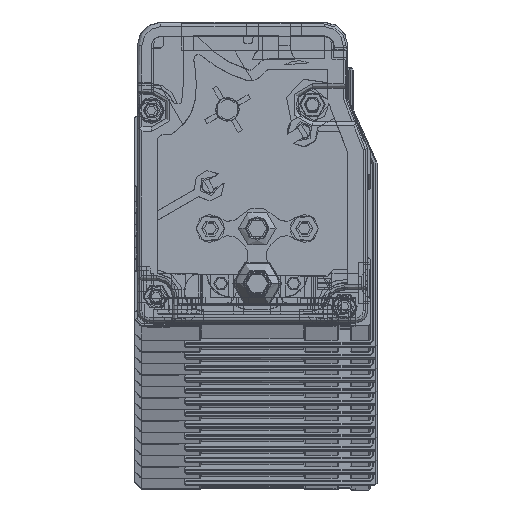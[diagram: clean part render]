
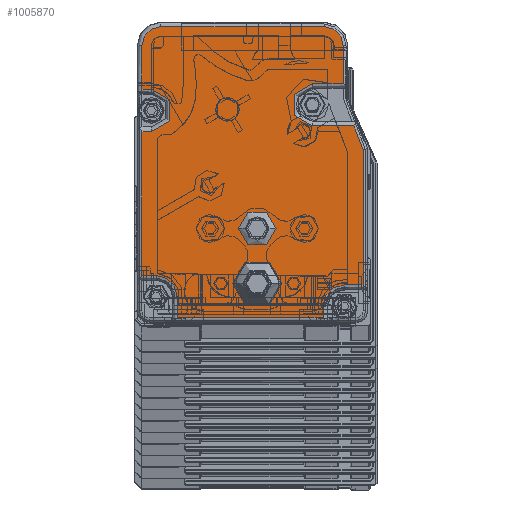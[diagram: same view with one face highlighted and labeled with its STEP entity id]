
A CAD part, top view. The second image highlights one B-rep face of the part: STEP entity #1005870.
In plain terms, the highlighted planar face has unit normal (0, 0, 1).
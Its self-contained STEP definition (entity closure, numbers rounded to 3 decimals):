
#1003410=CARTESIAN_POINT('',(-68.559,2.124,
4172.39));
#1003420=DIRECTION('',(0.,-1.,0.));
#1003430=VECTOR('',#1003420,1.);
#1003440=LINE('',#1003410,#1003430);
#1003450=CARTESIAN_POINT('',(-68.559,61.024,
4172.39));
#1003460=VERTEX_POINT('',#1003450);
#1003470=CARTESIAN_POINT('',(-68.559,51.727,
4172.39));
#1003480=VERTEX_POINT('',#1003470);
#1003490=EDGE_CURVE('',#1003460,#1003480,#1003440,.T.);
#1003850=CARTESIAN_POINT('',(-20.265,1.758,
4172.39));
#1003860=DIRECTION('',(0.,0.,-1.));
#1003870=DIRECTION('',(-1.,0.,0.));
#1003880=AXIS2_PLACEMENT_3D('',#1003850,#1003860,#1003870);
#1003890=PLANE('',#1003880);
#1003900=CARTESIAN_POINT('',(-44.056,10.421,
4172.39));
#1003910=DIRECTION('',(0.,0.,-1.));
#1003920=DIRECTION('',(-1.,0.,0.));
#1003930=AXIS2_PLACEMENT_3D('',#1003900,#1003910,#1003920);
#1003940=CIRCLE('',#1003930,5.);
#1003950=CARTESIAN_POINT('',(-49.056,10.421,
4172.39));
#1003960=VERTEX_POINT('',#1003950);
#1003970=CARTESIAN_POINT('',(-39.056,10.421,
4172.39));
#1003980=VERTEX_POINT('',#1003970);
#1003990=EDGE_CURVE('',#1003960,#1003980,#1003940,.T.);
#1004000=ORIENTED_EDGE('',*,*,#1003990,.T.);
#1004010=EDGE_CURVE('',#1003980,#1003960,#1003940,.T.);
#1004020=ORIENTED_EDGE('',*,*,#1004010,.T.);
#1004030=EDGE_LOOP('',(#1004020,#1004000));
#1004040=FACE_BOUND('',#1004030,.T.);
#1004050=CARTESIAN_POINT('',(-44.059,22.124,
4172.39));
#1004060=DIRECTION('',(0.,0.,1.));
#1004070=DIRECTION('',(-1.,0.,0.));
#1004080=AXIS2_PLACEMENT_3D('',#1004050,#1004060,#1004070);
#1004090=CIRCLE('',#1004080,4.);
#1004100=CARTESIAN_POINT('',(-40.059,22.124,
4172.39));
#1004110=VERTEX_POINT('',#1004100);
#1004120=CARTESIAN_POINT('',(-48.059,22.124,
4172.39));
#1004130=VERTEX_POINT('',#1004120);
#1004140=EDGE_CURVE('',#1004110,#1004130,#1004090,.T.);
#1004150=ORIENTED_EDGE('',*,*,#1004140,.F.);
#1004160=EDGE_CURVE('',#1004130,#1004110,#1004090,.T.);
#1004170=ORIENTED_EDGE('',*,*,#1004160,.F.);
#1004180=EDGE_LOOP('',(#1004170,#1004150));
#1004190=FACE_BOUND('',#1004180,.T.);
#1004200=CARTESIAN_POINT('',(-61.059,2.124,
4172.39));
#1004210=DIRECTION('',(0.,-1.,0.));
#1004220=VECTOR('',#1004210,1.);
#1004230=LINE('',#1004200,#1004220);
#1004240=CARTESIAN_POINT('',(-61.059,7.624,
4172.39));
#1004250=VERTEX_POINT('',#1004240);
#1004260=CARTESIAN_POINT('',(-61.059,3.124,
4172.39));
#1004270=VERTEX_POINT('',#1004260);
#1004280=EDGE_CURVE('',#1004250,#1004270,#1004230,.T.);
#1004290=ORIENTED_EDGE('',*,*,#1004280,.T.);
#1004300=CARTESIAN_POINT('',(-65.559,7.624,
4172.39));
#1004310=DIRECTION('',(0.,0.,-1.));
#1004320=DIRECTION('',(-1.,0.,0.));
#1004330=AXIS2_PLACEMENT_3D('',#1004300,#1004310,#1004320);
#1004340=CIRCLE('',#1004330,4.5);
#1004350=CARTESIAN_POINT('',(-65.559,12.124,
4172.39));
#1004360=VERTEX_POINT('',#1004350);
#1004370=EDGE_CURVE('',#1004360,#1004250,#1004340,.T.);
#1004380=ORIENTED_EDGE('',*,*,#1004370,.T.);
#1004390=CARTESIAN_POINT('',(-20.559,12.124,
4172.39));
#1004400=DIRECTION('',(1.,0.,0.));
#1004410=VECTOR('',#1004400,1.);
#1004420=LINE('',#1004390,#1004410);
#1004430=CARTESIAN_POINT('',(-68.559,12.124,
4172.39));
#1004440=VERTEX_POINT('',#1004430);
#1004450=EDGE_CURVE('',#1004440,#1004360,#1004420,.T.);
#1004460=ORIENTED_EDGE('',*,*,#1004450,.T.);
#1004470=CARTESIAN_POINT('',(-68.559,2.124,
4172.39));
#1004480=DIRECTION('',(0.,-1.,0.));
#1004490=VECTOR('',#1004480,1.);
#1004500=LINE('',#1004470,#1004490);
#1004510=CARTESIAN_POINT('',(-68.559,42.727,
4172.39));
#1004520=VERTEX_POINT('',#1004510);
#1004530=EDGE_CURVE('',#1004520,#1004440,#1004500,.T.);
#1004540=ORIENTED_EDGE('',*,*,#1004530,.T.);
#1004550=CARTESIAN_POINT('',(-20.559,42.727,
4172.39));
#1004560=DIRECTION('',(-1.,0.,0.));
#1004570=VECTOR('',#1004560,1.);
#1004580=LINE('',#1004550,#1004570);
#1004590=CARTESIAN_POINT('',(-66.559,42.727,
4172.39));
#1004600=VERTEX_POINT('',#1004590);
#1004610=EDGE_CURVE('',#1004600,#1004520,#1004580,.T.);
#1004620=ORIENTED_EDGE('',*,*,#1004610,.T.);
#1004630=CARTESIAN_POINT('',(-66.559,47.227,
4172.39));
#1004640=DIRECTION('',(0.,0.,-1.));
#1004650=DIRECTION('',(-1.,0.,0.));
#1004660=AXIS2_PLACEMENT_3D('',#1004630,#1004640,#1004650);
#1004670=CIRCLE('',#1004660,4.5);
#1004680=CARTESIAN_POINT('',(-66.559,51.727,
4172.39));
#1004690=VERTEX_POINT('',#1004680);
#1004700=EDGE_CURVE('',#1004690,#1004600,#1004670,.T.);
#1004710=ORIENTED_EDGE('',*,*,#1004700,.T.);
#1004720=CARTESIAN_POINT('',(-20.559,51.727,
4172.39));
#1004730=DIRECTION('',(1.,0.,0.));
#1004740=VECTOR('',#1004730,1.);
#1004750=LINE('',#1004720,#1004740);
#1004760=EDGE_CURVE('',#1003480,#1004690,#1004750,.T.);
#1004770=ORIENTED_EDGE('',*,*,#1004760,.T.);
#1004780=ORIENTED_EDGE('',*,*,#1003490,.T.);
#1004790=CARTESIAN_POINT('',(-64.559,61.024,
4172.39));
#1004800=DIRECTION('',(0.,0.,1.));
#1004810=DIRECTION('',(1.,0.,0.));
#1004820=AXIS2_PLACEMENT_3D('',#1004790,#1004800,#1004810);
#1004830=CIRCLE('',#1004820,4.);
#1004840=CARTESIAN_POINT('',(-64.559,65.024,
4172.39));
#1004850=VERTEX_POINT('',#1004840);
#1004860=EDGE_CURVE('',#1004850,#1003460,#1004830,.T.);
#1004870=ORIENTED_EDGE('',*,*,#1004860,.T.);
#1004880=CARTESIAN_POINT('',(-20.559,65.024,
4172.39));
#1004890=DIRECTION('',(-1.,0.,0.));
#1004900=VECTOR('',#1004890,1.);
#1004910=LINE('',#1004880,#1004900);
#1004920=CARTESIAN_POINT('',(-29.759,65.024,
4172.39));
#1004930=VERTEX_POINT('',#1004920);
#1004940=EDGE_CURVE('',#1004930,#1004850,#1004910,.T.);
#1004950=ORIENTED_EDGE('',*,*,#1004940,.T.);
#1004960=CARTESIAN_POINT('',(-29.759,61.024,
4172.39));
#1004970=DIRECTION('',(0.,0.,1.));
#1004980=DIRECTION('',(1.,0.,0.));
#1004990=AXIS2_PLACEMENT_3D('',#1004960,#1004970,#1004980);
#1005000=CIRCLE('',#1004990,4.);
#1005010=CARTESIAN_POINT('',(-25.759,61.024,
4172.39));
#1005020=VERTEX_POINT('',#1005010);
#1005030=EDGE_CURVE('',#1005020,#1004930,#1005000,.T.);
#1005040=ORIENTED_EDGE('',*,*,#1005030,.T.);
#1005050=CARTESIAN_POINT('',(-25.759,2.124,
4172.39));
#1005060=DIRECTION('',(0.,1.,0.));
#1005070=VECTOR('',#1005060,1.);
#1005080=LINE('',#1005050,#1005070);
#1005090=CARTESIAN_POINT('',(-25.759,52.924,
4172.39));
#1005100=VERTEX_POINT('',#1005090);
#1005110=EDGE_CURVE('',#1005100,#1005020,#1005080,.T.);
#1005120=ORIENTED_EDGE('',*,*,#1005110,.T.);
#1005130=CARTESIAN_POINT('',(-20.559,52.924,
4172.39));
#1005140=DIRECTION('',(-1.,0.,0.));
#1005150=VECTOR('',#1005140,1.);
#1005160=LINE('',#1005130,#1005150);
#1005170=CARTESIAN_POINT('',(-32.309,52.924,
4172.39));
#1005180=VERTEX_POINT('',#1005170);
#1005190=EDGE_CURVE('',#1005100,#1005180,#1005160,.T.);
#1005200=ORIENTED_EDGE('',*,*,#1005190,.F.);
#1005210=CARTESIAN_POINT('',(-32.309,48.424,
4172.39));
#1005220=DIRECTION('',(0.,0.,-1.));
#1005230=DIRECTION('',(-1.,0.,0.));
#1005240=AXIS2_PLACEMENT_3D('',#1005210,#1005220,#1005230);
#1005250=CIRCLE('',#1005240,4.5);
#1005260=CARTESIAN_POINT('',(-32.309,43.924,
4172.39));
#1005270=VERTEX_POINT('',#1005260);
#1005280=EDGE_CURVE('',#1005270,#1005180,#1005250,.T.);
#1005290=ORIENTED_EDGE('',*,*,#1005280,.T.);
#1005300=CARTESIAN_POINT('',(-20.559,43.924,
4172.39));
#1005310=DIRECTION('',(-1.,0.,0.));
#1005320=VECTOR('',#1005310,1.);
#1005330=LINE('',#1005300,#1005320);
#1005340=CARTESIAN_POINT('',(-23.499,43.924,
4172.39));
#1005350=VERTEX_POINT('',#1005340);
#1005360=EDGE_CURVE('',#1005350,#1005270,#1005330,.T.);
#1005370=ORIENTED_EDGE('',*,*,#1005360,.T.);
#1005380=CARTESIAN_POINT('',(-7.243,2.124,
4172.39));
#1005390=DIRECTION('',(0.362,-0.932,0.));
#1005400=VECTOR('',#1005390,1.);
#1005410=LINE('',#1005380,#1005400);
#1005420=CARTESIAN_POINT('',(-21.559,38.937,
4172.39));
#1005430=VERTEX_POINT('',#1005420);
#1005440=EDGE_CURVE('',#1005350,#1005430,#1005410,.T.);
#1005450=ORIENTED_EDGE('',*,*,#1005440,.F.);
#1005460=CARTESIAN_POINT('',(-21.559,2.124,
4172.39));
#1005470=DIRECTION('',(0.,-1.,0.));
#1005480=VECTOR('',#1005470,1.);
#1005490=LINE('',#1005460,#1005480);
#1005500=CARTESIAN_POINT('',(-21.559,10.124,
4172.39));
#1005510=VERTEX_POINT('',#1005500);
#1005520=EDGE_CURVE('',#1005430,#1005510,#1005490,.T.);
#1005530=ORIENTED_EDGE('',*,*,#1005520,.F.);
#1005540=CARTESIAN_POINT('',(-20.559,10.124,
4172.39));
#1005550=DIRECTION('',(1.,0.,0.));
#1005560=VECTOR('',#1005550,1.);
#1005570=LINE('',#1005540,#1005560);
#1005580=CARTESIAN_POINT('',(-25.559,10.124,
4172.39));
#1005590=VERTEX_POINT('',#1005580);
#1005600=EDGE_CURVE('',#1005590,#1005510,#1005570,.T.);
#1005610=ORIENTED_EDGE('',*,*,#1005600,.T.);
#1005620=CARTESIAN_POINT('',(-25.559,5.624,
4172.39));
#1005630=DIRECTION('',(0.,0.,-1.));
#1005640=DIRECTION('',(-1.,0.,0.));
#1005650=AXIS2_PLACEMENT_3D('',#1005620,#1005630,#1005640);
#1005660=CIRCLE('',#1005650,4.5);
#1005670=CARTESIAN_POINT('',(-30.059,5.624,
4172.39));
#1005680=VERTEX_POINT('',#1005670);
#1005690=EDGE_CURVE('',#1005680,#1005590,#1005660,.T.);
#1005700=ORIENTED_EDGE('',*,*,#1005690,.T.);
#1005710=CARTESIAN_POINT('',(-30.059,2.124,
4172.39));
#1005720=DIRECTION('',(0.,1.,0.));
#1005730=VECTOR('',#1005720,1.);
#1005740=LINE('',#1005710,#1005730);
#1005750=CARTESIAN_POINT('',(-30.059,3.124,
4172.39));
#1005760=VERTEX_POINT('',#1005750);
#1005770=EDGE_CURVE('',#1005760,#1005680,#1005740,.T.);
#1005780=ORIENTED_EDGE('',*,*,#1005770,.T.);
#1005790=CARTESIAN_POINT('',(-20.559,3.124,
4172.39));
#1005800=DIRECTION('',(-1.,0.,0.));
#1005810=VECTOR('',#1005800,1.);
#1005820=LINE('',#1005790,#1005810);
#1005830=EDGE_CURVE('',#1005760,#1004270,#1005820,.T.);
#1005840=ORIENTED_EDGE('',*,*,#1005830,.F.);
#1005850=EDGE_LOOP('',(#1005840,#1005780,#1005700,#1005610,#1005530,
#1005450,#1005370,#1005290,#1005200,#1005120,#1005040,#1004950,#1004870,
#1004780,#1004770,#1004710,#1004620,#1004540,#1004460,#1004380,#1004290)
);
#1005860=FACE_OUTER_BOUND('',#1005850,.T.);
#1005870=ADVANCED_FACE('',(#1004040,#1004190,#1005860),#1003890,.F.);
